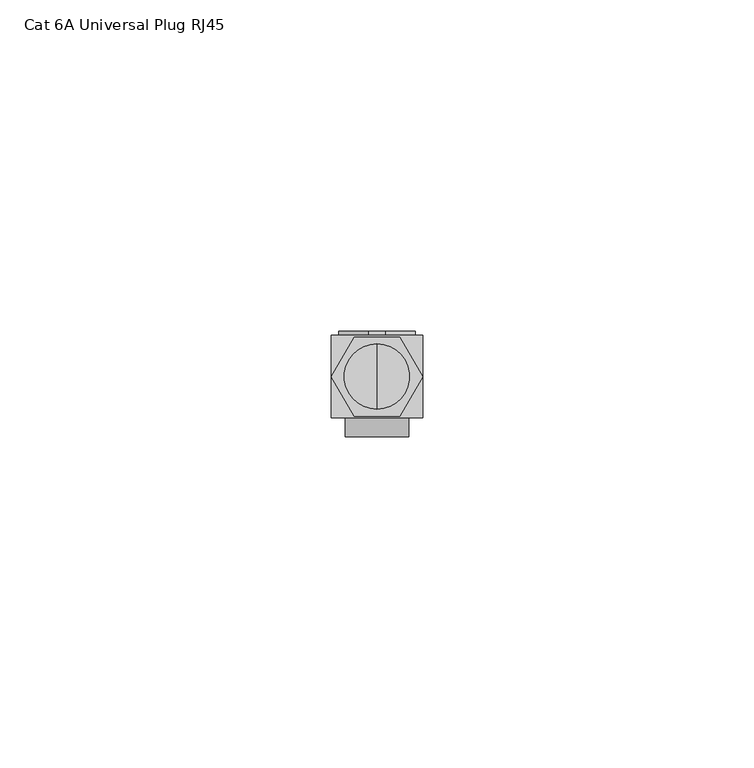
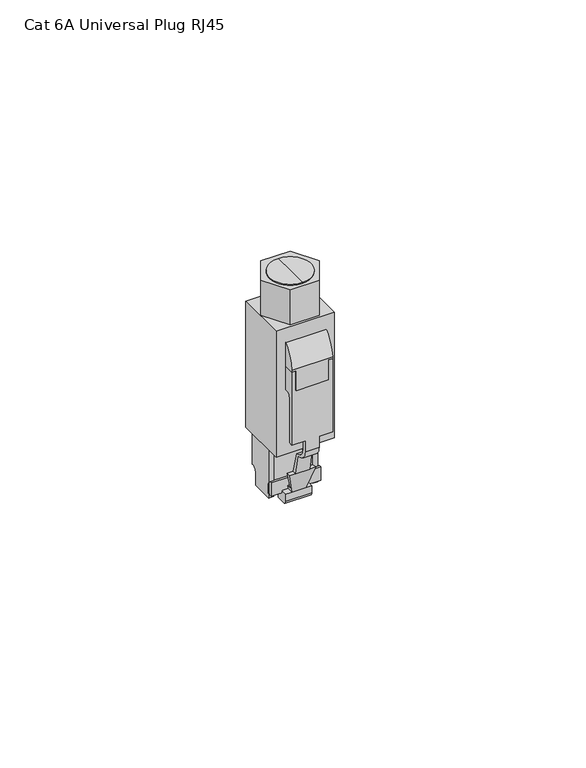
"""IFC4 building model written with IfcOpenShell, lengths in millimetres: electric appliance geometry, Data_Device-Network-Leviton-Cat_6A-Plug : Cat 6A Universal Plug RJ45."""

import ifcopenshell
import ifcopenshell.guid

model = None  # the IFC model being written
_history = None  # IfcOwnerHistory: only IFC2X3 demands one
_inside = {}  # id of a spatial element -> (the spatial element, [elements in it])
_under = {}  # id of a project, library or spatial element -> (it, [spatial elements below it])
_declared = {}  # id of a project -> (the project, [libraries it declares])
_typed = {}  # id of a type object -> (the type object, [elements of that type])
_made_of = {}  # id of a material, layer set ... -> (it, [elements and type objects made of it])


def new_model(schema):
    """Start an empty IFC model of exactly this schema.

    Asked for "IFC4X3", IfcOpenShell would pick the latest addendum, in which some entities
    have other attributes; the version numbers below select the first issue.
    IFC2X3 requires an IfcOwnerHistory on every rooted entity: one is made here for all.
    """
    global model, _history
    if schema == "IFC4X3":
        model = ifcopenshell.file(schema_version=(4, 3, 0, 0))
    else:
        model = ifcopenshell.file(schema=schema)
    _inside.clear()
    _under.clear()
    _declared.clear()
    _typed.clear()
    _made_of.clear()
    _history = None
    if model.schema == "IFC2X3":
        org = make("IfcOrganization", Name="unknown")
        user = make(
            "IfcPersonAndOrganization",
            ThePerson=make("IfcPerson", FamilyName="unknown"),
            TheOrganization=org,
        )
        app = make(
            "IfcApplication",
            ApplicationDeveloper=org,
            Version="unknown",
            ApplicationFullName="unknown",
            ApplicationIdentifier="unknown",
        )
        _history = make(
            "IfcOwnerHistory",
            OwningUser=user,
            OwningApplication=app,
            ChangeAction="ADDED",
            CreationDate=0,
        )
    return model


def make(cls, **values):
    """One entity of the class cls with the attributes given. An attribute that is None is left unset."""
    return model.create_entity(
        cls, **{name: value for name, value in values.items() if value is not None}
    )


def rooted(cls, **values):
    """An entity with a GlobalId (a new one), such as an element, a storey or a relation."""
    return make(cls, GlobalId=ifcopenshell.guid.new(), OwnerHistory=_history, **values)


def si_unit(unit_type, name, prefix=None):
    """IfcSIUnit, for example si_unit("LENGTHUNIT", "METRE", prefix="MILLI")."""
    return make("IfcSIUnit", UnitType=unit_type, Prefix=prefix, Name=name)


def assignment(units):
    """IfcUnitAssignment: the units of a project."""
    return None if units is None else make("IfcUnitAssignment", Units=units)


def point(xyz):
    """IfcCartesianPoint."""
    return None if xyz is None else make("IfcCartesianPoint", Coordinates=xyz)


def direction(xyz):
    """IfcDirection."""
    return None if xyz is None else make("IfcDirection", DirectionRatios=xyz)


def frame(location, z_axis=None, x_axis=None):
    """IfcAxis2Placement3D, a coordinate frame: its origin and axes. An axis left out is left unset."""
    return make(
        "IfcAxis2Placement3D",
        Location=point(location),
        Axis=direction(z_axis),
        RefDirection=direction(x_axis),
    )


def frame_2d(location, x_axis=None):
    """IfcAxis2Placement2D, a coordinate frame in the plane: its origin and x axis."""
    return make(
        "IfcAxis2Placement2D", Location=point(location), RefDirection=direction(x_axis)
    )


def origin():
    """The frame at (0, 0, 0) with its axes left unset."""
    return frame((0.0, 0.0, 0.0))


def origin_with_axes():
    """The frame at (0, 0, 0) with the z axis (0, 0, 1) and the x axis (1, 0, 0) written out."""
    return frame((0.0, 0.0, 0.0), z_axis=(0.0, 0.0, 1.0), x_axis=(1.0, 0.0, 0.0))


def place(relative_to, where):
    """IfcLocalPlacement: puts the frame where relative to a parent placement (None: the world)."""
    return make(
        "IfcLocalPlacement", PlacementRelTo=relative_to, RelativePlacement=where
    )


def context(
    kind, dimensions, precision=None, world=None, true_north=None, identifier=None
):
    """IfcGeometricRepresentationContext, for example the 3D "Model" context."""
    return make(
        "IfcGeometricRepresentationContext",
        ContextIdentifier=identifier,
        ContextType=kind,
        CoordinateSpaceDimension=dimensions,
        Precision=precision,
        WorldCoordinateSystem=world,
        TrueNorth=true_north,
    )


def project(units=None, contexts=None):
    """IfcProject with its units and contexts."""
    return rooted(
        "IfcProject",
        Name="project",
        RepresentationContexts=contexts,
        UnitsInContext=assignment(units),
    )


def spatial(cls, under=None, at=None, **own):
    """A site, building, storey or space (cls), placed at a placement, below another one or the project."""
    s = rooted(cls, ObjectPlacement=at, **own)
    if under is not None:
        _under.setdefault(under.id(), (under, []))[1].append(s)
    return s


def polyline(points):
    """IfcPolyline through the points."""
    return make("IfcPolyline", Points=[point(p) for p in points])


def circle_curve(where, radius):
    """IfcCircle in the frame where."""
    return make("IfcCircle", Position=where, Radius=radius)


def trimmed(basis, trim1, trim2, sense, master):
    """IfcTrimmedCurve: the piece of a basis curve between two trims."""
    return make(
        "IfcTrimmedCurve",
        BasisCurve=basis,
        Trim1=trim1,
        Trim2=trim2,
        SenseAgreement=sense,
        MasterRepresentation=master,
    )


def segment(curve, same_sense, transition):
    """IfcCompositeCurveSegment."""
    return make(
        "IfcCompositeCurveSegment",
        Transition=transition,
        SameSense=same_sense,
        ParentCurve=curve,
    )


def composite_curve(segments, self_intersect=None):
    """IfcCompositeCurve: segments joined end to end."""
    return make("IfcCompositeCurve", Segments=segments, SelfIntersect=self_intersect)


def outline(outer, holes=None, kind="AREA"):
    """IfcArbitraryClosedProfileDef: a profile drawn as a closed curve; with holes, ...WithVoids."""
    if holes is None:
        return make("IfcArbitraryClosedProfileDef", ProfileType=kind, OuterCurve=outer)
    return make(
        "IfcArbitraryProfileDefWithVoids",
        ProfileType=kind,
        OuterCurve=outer,
        InnerCurves=holes,
    )


def extrude(swept, where, along, depth):
    """IfcExtrudedAreaSolid: the profile swept, set in the frame where, extruded along a direction by depth."""
    return make(
        "IfcExtrudedAreaSolid",
        SweptArea=swept,
        Position=where,
        ExtrudedDirection=direction(along),
        Depth=depth,
    )


def shape(context_of_items, identifier, shape_type, items):
    """IfcShapeRepresentation: the items that make up one representation, for example the "Body"."""
    return make(
        "IfcShapeRepresentation",
        ContextOfItems=context_of_items,
        RepresentationIdentifier=identifier,
        RepresentationType=shape_type,
        Items=items,
    )


def source(mapping_origin, context_of_items, identifier, shape_type, items):
    """IfcRepresentationMap: a shape defined once, which mapped items show again and again."""
    return make(
        "IfcRepresentationMap",
        MappingOrigin=mapping_origin,
        MappedRepresentation=shape(context_of_items, identifier, shape_type, items),
    )


def transform(
    local_origin,
    x_axis=None,
    y_axis=None,
    z_axis=None,
    scale=None,
    scale2=None,
    scale3=None,
    uniform=True,
):
    """IfcCartesianTransformationOperator3D, or its non-uniform kind. x_axis, y_axis, z_axis: its Axis1, 2, 3."""
    if uniform:
        return make(
            "IfcCartesianTransformationOperator3D",
            Axis1=direction(x_axis),
            Axis2=direction(y_axis),
            LocalOrigin=point(local_origin),
            Scale=scale,
            Axis3=direction(z_axis),
        )
    return make(
        "IfcCartesianTransformationOperator3DnonUniform",
        Axis1=direction(x_axis),
        Axis2=direction(y_axis),
        LocalOrigin=point(local_origin),
        Scale=scale,
        Axis3=direction(z_axis),
        Scale2=scale2,
        Scale3=scale3,
    )


def mapped(mapping_source, mapping_target):
    """IfcMappedItem: shows the shape of a source again, moved by a transform."""
    return make(
        "IfcMappedItem", MappingSource=mapping_source, MappingTarget=mapping_target
    )


def made_of(thing, what):
    """Note that an element or type object is made of a material, layer set ...; save() writes the relation."""
    if what is not None:
        _made_of.setdefault(what.id(), (what, []))[1].append(thing)
    return thing


def element(
    cls,
    number,
    at=None,
    inside=None,
    cuts=None,
    type_object=None,
    material=None,
    context=None,
    identifier="Body",
    shape_type=None,
    held_by="IfcProductDefinitionShape",
    body=None,
    shapes=None,
    **own,
):
    """One element of the class cls, such as IfcWall. Its Tag is "e" and its number.

    at: its placement. inside: the storey or other place that contains it. cuts: it is an
    opening in that element (IfcRelVoidsElement). A single representation is given by context,
    identifier, shape_type and body (its items); several are given by shapes. held_by: the class
    of the entity that holds the representations. save() writes the other relations.
    """
    e = rooted(cls, Tag="e%d" % number, ObjectPlacement=at, **own)
    if body is not None:
        shapes = [shape(context, identifier, shape_type, body)]
    if shapes is not None:
        e.Representation = make(held_by, Representations=shapes)
    if inside is not None:
        _inside.setdefault(inside.id(), (inside, []))[1].append(e)
    if cuts is not None:
        rooted(
            "IfcRelVoidsElement", RelatingBuildingElement=cuts, RelatedOpeningElement=e
        )
    if type_object is not None:
        _typed.setdefault(type_object.id(), (type_object, []))[1].append(e)
    return made_of(e, material)


def aggregate(whole, parts):
    """IfcRelAggregates: a whole, such as a stair, and the parts it consists of."""
    return rooted("IfcRelAggregates", RelatingObject=whole, RelatedObjects=parts)


def save(model, path):
    """Write the relations noted so far, then the file.

    IfcRelAggregates (storeys below a building ...), IfcRelContainedInSpatialStructure (elements
    in a storey), IfcRelDefinesByType, IfcRelAssociatesMaterial and IfcRelDeclares: one each for
    every whole, place, type object, material and project.
    """
    for whole, parts in _under.values():
        aggregate(whole, parts)
    for where, things in _inside.values():
        rooted(
            "IfcRelContainedInSpatialStructure",
            RelatedElements=things,
            RelatingStructure=where,
        )
    for kind, things in _typed.values():
        rooted("IfcRelDefinesByType", RelatedObjects=things, RelatingType=kind)
    for what, things in _made_of.values():
        rooted("IfcRelAssociatesMaterial", RelatedObjects=things, RelatingMaterial=what)
    for by, libraries in _declared.values():
        rooted("IfcRelDeclares", RelatingContext=by, RelatedDefinitions=libraries)
    model.write(path)


def plane_surface(at):
    """IfcPlane: the flat surface through the origin of the frame at, square to its z axis."""
    return make("IfcPlane", Position=at)


def cylinder_surface(at, radius):
    """IfcCylindricalSurface: all points at the distance radius from the z axis of the frame at."""
    return make("IfcCylindricalSurface", Position=at, Radius=radius)


def revolved_surface(curve, axis_point, axis_direction):
    """IfcSurfaceOfRevolution: the curve turned about the line through axis_point along axis_direction."""
    return make(
        "IfcSurfaceOfRevolution",
        SweptCurve=make("IfcArbitraryOpenProfileDef", ProfileType="CURVE", Curve=curve),
        AxisPosition=make("IfcAxis1Placement", Location=point(axis_point), Axis=direction(axis_direction)),
    )


def advanced_brep(points, edges, surfaces, faces):
    """IfcAdvancedBrep: a solid bounded by faces that lie on surfaces and meet in shared edges.

    An edge is (start, end): straight between two places in points (the first is 0);
    or (start, end, curve); or (start, end, curve, False) where it runs against its curve.
    A face is (place in surfaces, loops), or (place, loops, False) where it looks against
    its surface's normal. A loop lists edges by number (the first is 1), with a minus sign
    where the edge is run from its end to its start. The first loop is the outer one.
    """
    corners = [point(p) for p in points]
    vertices = [make("IfcVertexPoint", VertexGeometry=c) for c in corners]
    made = []
    for start, end, *more in edges:
        made.append(
            make(
                "IfcEdgeCurve",
                EdgeStart=vertices[start],
                EdgeEnd=vertices[end],
                EdgeGeometry=more[0] if more else make("IfcPolyline", Points=[corners[start], corners[end]]),
                SameSense=more[1] if len(more) > 1 else True,
            )
        )
    hull = []
    for where, loops, *sense in faces:
        bounds = []
        for j, loop in enumerate(loops):
            ring = [make("IfcOrientedEdge", EdgeElement=made[abs(k) - 1], Orientation=k > 0) for k in loop]
            bounds.append(
                make(
                    "IfcFaceOuterBound" if j == 0 else "IfcFaceBound",
                    Bound=make("IfcEdgeLoop", EdgeList=ring),
                    Orientation=True,
                )
            )
        hull.append(make("IfcAdvancedFace", Bounds=bounds, FaceSurface=surfaces[where], SameSense=sense[0] if sense else True))
    return make("IfcAdvancedBrep", Outer=make("IfcClosedShell", CfsFaces=hull))


def cat_6a_universal_plug_rj45_b46e12e7(model_context):
    return source(origin(), model_context, "Body", "SolidModel", [
        advanced_brep(
        [(-23.0251, 8.9270724, 40.5000001), (-23.0251, -0.933565, 40.5000001), (-23.0251, 3.9967537, 40.5000001), (-23.0251, 8.9270724, 31.4499997), (-23.0251, -0.933565, 31.4499997), (-23.0251, 3.9967537, 31.4499997)],
        [
            (0, 1, circle_curve(frame((-23.0251, 3.9967537, 40.5000001), z_axis=(0.0, 0.0, 1.0), x_axis=(0.0, -1.0, 0.0)), 4.9303187)),
            (1, 2),
            (2, 0),
            (1, 0, circle_curve(frame((-23.0251, 3.9967537, 40.5000001), z_axis=(0.0, 0.0, 1.0), x_axis=(0.0, -1.0, 0.0)), 4.9303187)),
            (3, 4, circle_curve(frame((-23.0251, 3.9967537, 31.4499997), z_axis=(0.0, 0.0, 1.0), x_axis=(0.0, -1.0, 0.0)), 4.9303187)),
            (4, 1),
            (0, 3),
            (4, 3, circle_curve(frame((-23.0251, 3.9967537, 31.4499997), z_axis=(0.0, 0.0, 1.0), x_axis=(0.0, -1.0, 0.0)), 4.9303187)),
            (5, 4),
            (3, 5),
        ],
        [
            plane_surface(frame((-23.0251, 3.9967537, 40.5000001), z_axis=(0.0, 0.0, 1.0), x_axis=(0.0, -1.0, 0.0))),
            cylinder_surface(frame((-23.0251, 3.9967537, 25.5213869), z_axis=(0.0, 0.0, -1.0), x_axis=(0.0, -1.0, 0.0)), 4.9303187),
            plane_surface(frame((-23.0251, 3.9967537, 31.4499997), z_axis=(0.0, 0.0, -1.0), x_axis=(0.0, -1.0, 0.0))),
        ],
        [
            (0, [[1, 2, 3]]),
            (0, [[4, -3, -2]]),
            (1, [[5, 6, -1, 7]]),
            (1, [[8, -7, -4, -6]]),
            (2, [[9, -5, 10]]),
            (2, [[-10, -8, -9]]),
        ],
    ),
        extrude(outline(polyline([(-16.1326925, 3.9967537), (-19.5788962, -1.9722463), (-26.4713038, -1.9722463), (-29.9175075, 3.9967537), (-26.4713038, 9.9657537), (-19.5788962, 9.9657537), (-16.1326925, 3.9967537)])), frame((0.0, 0.0, 31.750001), z_axis=(0.0, 0.0, 1.0), x_axis=(1.0, 0.0, 0.0)), (0.0, 0.0, 1.0), 8.7499991),
        extrude(outline(polyline([(-27.6112001, 3.9542826), (-27.6112001, 8.2042828), (-18.4389999, 8.2042828), (-18.4389999, 3.9542826), (-27.6112001, 3.9542826)])), origin_with_axes(), (0.0, 0.0, 1.0), 13.5500003),
        advanced_brep(
        [(-21.7550806, 10.8409543, 6.851052), (-24.282634, 10.8409543, 6.8510693), (-28.8124503, 10.8409543, 11.3683211), (-28.8125134, 10.8409543, 20.6178211), (-24.2980018, 10.8409543, 25.135151), (-21.7521982, 10.8409543, 25.135151), (-17.2376866, 10.8409543, 20.6178211), (-17.2377497, 10.8409543, 11.3683211), (-21.7550806, 10.2040825, 6.851052), (-17.2377497, 10.2040825, 11.3683211), (-17.2376866, 10.2040825, 20.6178211), (-21.7521982, 10.2040825, 25.135151), (-24.2949557, 10.2040825, 25.1351684), (-28.8125134, 10.2040825, 20.6178211), (-28.8124503, 10.2040825, 11.3683211), (-24.282634, 10.2040825, 6.8510693)],
        [
            (0, 1),
            (1, 2, circle_curve(frame((-24.2951503, 10.8409543, 11.3683519), z_axis=(0.0, 1.0, 0.0), x_axis=(1.0, 0.0, 0.0)), 4.5172999)),
            (2, 3),
            (3, 4, circle_curve(frame((-24.2952135, 10.8409543, 20.617852), z_axis=(0.0, 1.0, 0.0), x_axis=(1.0, 0.0, 0.0)), 4.5172999)),
            (4, 5),
            (5, 6, circle_curve(frame((-21.7549865, 10.8409543, 20.617852), z_axis=(0.0, 1.0, 0.0), x_axis=(1.0, 0.0, 0.0)), 4.5172999)),
            (6, 7),
            (7, 0, circle_curve(frame((-21.7550497, 10.8409543, 11.3683519), z_axis=(0.0, 1.0, 0.0), x_axis=(1.0, 0.0, 0.0)), 4.5172999)),
            (8, 9, circle_curve(frame((-21.7550497, 10.2040825, 11.3683519), z_axis=(0.0, -1.0, 0.0), x_axis=(1.0, 0.0, 0.0)), 4.5172999)),
            (9, 10),
            (10, 11, circle_curve(frame((-21.7549865, 10.2040825, 20.617852), z_axis=(0.0, -1.0, 0.0), x_axis=(1.0, 0.0, 0.0)), 4.5172999)),
            (11, 12),
            (12, 13, circle_curve(frame((-24.2952135, 10.2040825, 20.617852), z_axis=(0.0, -1.0, 0.0), x_axis=(1.0, 0.0, 0.0)), 4.5172999)),
            (13, 14),
            (14, 15, circle_curve(frame((-24.2951503, 10.2040825, 11.3683519), z_axis=(0.0, -1.0, 0.0), x_axis=(1.0, 0.0, 0.0)), 4.5172999)),
            (15, 8),
            (0, 8),
            (15, 1),
            (14, 2),
            (13, 3),
            (12, 4),
            (11, 5),
            (10, 6),
            (9, 7),
        ],
        [
            plane_surface(frame((-24.282634, 10.8409543, 6.8510693), z_axis=(0.0, 1.0, 0.0), x_axis=(-0.9999999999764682, 0.0, 6.860297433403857e-06))),
            plane_surface(frame((-24.282634, 10.2040825, 6.8510693), z_axis=(0.0, -1.0, 0.0), x_axis=(0.9999999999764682, 0.0, -6.860297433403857e-06))),
            plane_surface(frame((-21.7550806, 10.8409543, 6.851052), z_axis=(-6.860297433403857e-06, 0.0, -0.9999999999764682), x_axis=(0.0, -1.0, 0.0))),
            cylinder_surface(frame((-24.2951503, 10.2040825, 11.3683519), z_axis=(0.0, 1.0, 0.0), x_axis=(1.0, 0.0, 0.0)), 4.5172999),
            plane_surface(frame((-28.8124503, 10.8409543, 11.3683211), z_axis=(-0.999999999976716, 0.0, -6.8240925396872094e-06), x_axis=(0.0, -1.0, 0.0))),
            cylinder_surface(frame((-24.2952135, 10.2040825, 20.617852), z_axis=(0.0, 1.0, 0.0), x_axis=(1.0, 0.0, 0.0)), 4.5172999),
            plane_surface(frame((-24.2949557, 10.8409543, 25.1351684), z_axis=(6.826971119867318e-06, 0.0, 0.9999999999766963), x_axis=(0.0, -1.0, 0.0))),
            cylinder_surface(frame((-21.7549865, 10.2040825, 20.617852), z_axis=(0.0, 1.0, 0.0), x_axis=(1.0, 0.0, 0.0)), 4.5172999),
            plane_surface(frame((-17.2376866, 10.8409543, 20.6178211), z_axis=(0.999999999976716, 0.0, -6.824092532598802e-06), x_axis=(0.0, -1.0, 0.0))),
            cylinder_surface(frame((-21.7550497, 10.2040825, 11.3683519), z_axis=(0.0, 1.0, 0.0), x_axis=(1.0, 0.0, 0.0)), 4.5172999),
        ],
        [
            (0, [[1, 2, 3, 4, 5, 6, 7, 8]]),
            (1, [[9, 10, 11, 12, 13, 14, 15, 16]]),
            (2, [[-1, 17, -16, 18]]),
            (3, [[-2, -18, -15, 19]]),
            (4, [[-3, -19, -14, 20]]),
            (5, [[-4, -20, -13, 21]]),
            (6, [[-5, -21, -12, 22]]),
            (7, [[-6, -22, -11, 23]]),
            (8, [[-7, -23, -10, 24]]),
            (9, [[-8, -24, -9, -17]]),
        ],
    ),
        extrude(outline(polyline([(-16.129, 10.2040825), (-16.129, -2.1867175), (-29.9212, -2.1867175), (-29.9212, 10.2040825), (-16.129, 10.2040825)])), origin_with_axes(), (0.0, 0.0, 1.0), 31.4499997),
        advanced_brep(
        [(-17.1831, 9.3042822, 0.0), (-17.1831, 2.7042823, 0.0), (-17.1831, 2.7042823, -9.6673754), (-17.1831, 2.9542829, -10.45), (-17.1831, 2.9542829, -12.5), (-17.1831, 2.7042823, -12.5), (-17.1831, 2.7042823, -13.5500003), (-17.1831, 7.9542822, -13.5500003), (-17.1831, 7.9542822, -10.45), (-17.1831, 9.3042822, -9.1), (-28.8651002, 9.3042822, 0.0), (-28.8651002, 9.3042822, -9.1), (-28.8651002, 7.9542822, -10.45), (-28.8651002, 7.9542822, -13.5500003), (-28.8651002, 2.7042823, -13.5500003), (-28.8651002, 2.7042823, -12.5), (-28.8651002, 2.9542829, -12.5), (-28.8651002, 2.9542829, -10.45), (-28.8651002, 2.7042823, -9.6673754), (-28.8651002, 2.7042823, 0.0), (-18.4351, 2.7042823, -13.5500003), (-18.4351, 6.9542825, -13.5500003), (-27.6151, 6.9542825, -13.5500003), (-27.6151, 2.7042823, -13.5500003), (-18.4351, 2.7042823, -12.5), (-27.6151, 2.7042823, -12.5), (-18.4351, 2.7042823, 0.0), (-18.4351, 2.7042823, -9.6673754), (-27.6151, 2.7042823, 0.0), (-27.6151, 2.7042823, -9.6673754), (-27.6151, 6.9542825, 0.0), (-18.4351, 6.9542825, 0.0), (-18.4351, 2.9542829, -12.5), (-18.4351, 2.9542829, -10.45), (-27.6151, 2.9542829, -10.45), (-27.6151, 2.9542829, -12.5)],
        [
            (0, 1),
            (1, 2),
            (2, 3, circle_curve(frame((-17.1831, 1.6042828, -10.45), z_axis=(-1.0, 0.0, 0.0), x_axis=(0.0, 1.0, 0.0)), 1.35)),
            (3, 4),
            (4, 5),
            (5, 6),
            (6, 7),
            (7, 8),
            (8, 9, circle_curve(frame((-17.1831, 9.3042822, -10.45), z_axis=(-1.0, 0.0, 0.0), x_axis=(0.0, 1.0, 0.0)), 1.35)),
            (9, 0),
            (10, 11),
            (11, 12, circle_curve(frame((-28.8651002, 9.3042822, -10.45), z_axis=(1.0, 0.0, 0.0), x_axis=(0.0, 1.0, 0.0)), 1.35)),
            (12, 13),
            (13, 14),
            (14, 15),
            (15, 16),
            (16, 17),
            (17, 18, circle_curve(frame((-28.8651002, 1.6042828, -10.45), z_axis=(1.0, 0.0, 0.0), x_axis=(0.0, 1.0, 0.0)), 1.35)),
            (18, 19),
            (19, 10),
            (9, 11),
            (10, 0),
            (6, 20),
            (20, 21),
            (21, 22),
            (22, 23),
            (23, 14),
            (13, 7),
            (5, 24),
            (24, 20),
            (23, 25),
            (25, 15),
            (1, 26),
            (26, 27),
            (27, 2),
            (28, 19),
            (18, 29),
            (29, 28),
            (28, 30),
            (30, 31),
            (31, 26),
            (8, 12),
            (21, 31),
            (30, 22),
            (24, 32),
            (32, 33),
            (33, 27, circle_curve(frame((-18.4351, 1.6042828, -10.45), z_axis=(1.0, 0.0, 0.0), x_axis=(0.0, 1.0, 0.0)), 1.35)),
            (29, 34, circle_curve(frame((-27.6151, 1.6042828, -10.45), z_axis=(-1.0, 0.0, 0.0), x_axis=(0.0, 1.0, 0.0)), 1.35)),
            (34, 35),
            (35, 25),
            (33, 3),
            (17, 34),
            (32, 4),
            (16, 35),
        ],
        [
            plane_surface(frame((-17.1831, 9.5233298, 0.0), z_axis=(1.0, 0.0, 0.0), x_axis=(0.0, -1.0, 0.0))),
            plane_surface(frame((-28.8651002, 9.5233298, 0.0), z_axis=(-1.0, 0.0, 0.0), x_axis=(0.0, 1.0, 0.0))),
            plane_surface(frame((-17.1831, 9.3042822, -9.1), z_axis=(0.0, 1.0, 0.0), x_axis=(-1.0, 0.0, 0.0))),
            plane_surface(frame((-17.1831, 2.7042823, -13.5500003), z_axis=(0.0, 0.0, -1.0), x_axis=(-1.0, 0.0, 0.0))),
            plane_surface(frame((-17.1831, 2.7042823, 0.0), z_axis=(0.0, -1.0, 0.0), x_axis=(-1.0, 0.0, 0.0))),
            plane_surface(frame((-17.1831, 9.3042822, 0.0), z_axis=(0.0, 0.0, 1.0), x_axis=(-1.0, 0.0, 0.0))),
            revolved_surface(polyline([(-28.8651002, 10.654282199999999, -10.45), (-17.1831, 10.654282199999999, -10.45)]), (-28.8651002, 9.3042822, -10.45), (-1.0, 0.0, 0.0)),
            plane_surface(frame((-17.1831, 7.9542822, -13.5500003), z_axis=(0.0, 1.0, 0.0), x_axis=(-1.0, 0.0, 0.0))),
            plane_surface(frame((-18.4351, 6.9542825, 0.0), z_axis=(0.0, -1.0, 0.0), x_axis=(0.0, 0.0, -1.0))),
            plane_surface(frame((-18.4351, 2.7042823, 0.0), z_axis=(-1.0, 0.0, 0.0), x_axis=(0.0, 0.0, -1.0))),
            plane_surface(frame((-27.6151, 6.9542825, 0.0), z_axis=(1.0, 0.0, 0.0), x_axis=(0.0, 0.0, -1.0))),
            revolved_surface(polyline([(-18.4351, 2.9542828, -10.45), (-17.1831, 2.9542828, -10.45)]), (-17.1831, 1.6042828, -10.45), (-1.0, 0.0, 0.0)),
            revolved_surface(polyline([(-28.8651002, 2.9542828, -10.45), (-27.6151, 2.9542828, -10.45)]), (-17.1831, 1.6042828, -10.45), (-1.0, 0.0, 0.0)),
            plane_surface(frame((-28.8651002, 2.9542829, -10.45), z_axis=(0.0, -1.0, -8.722668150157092e-09), x_axis=(1.0, 0.0, 0.0))),
            plane_surface(frame((-28.8651002, 2.9542829, -12.5), z_axis=(0.0, 0.0, 1.0), x_axis=(1.0, 0.0, 0.0))),
        ],
        [
            (0, [[1, 2, 3, 4, 5, 6, 7, 8, 9, 10]]),
            (1, [[11, 12, 13, 14, 15, 16, 17, 18, 19, 20]]),
            (2, [[-10, 21, -11, 22]]),
            (3, [[-7, 23, 24, 25, 26, 27, -14, 28]]),
            (4, [[-23, -6, 29, 30]]),
            (4, [[-27, 31, 32, -15]]),
            (4, [[33, 34, 35, -2]]),
            (4, [[36, -19, 37, 38]]),
            (5, [[-1, -22, -20, -36, 39, 40, 41, -33]]),
            (6, [[-9, 42, -12, -21]]),
            (7, [[-8, -28, -13, -42]]),
            (8, [[43, -40, 44, -25]]),
            (9, [[-43, -24, -30, 45, 46, 47, -34, -41]]),
            (10, [[-44, -39, -38, 48, 49, 50, -31, -26]]),
            (11, [[51, -3, -35, -47]]),
            (12, [[52, -48, -37, -18]]),
            (13, [[-51, -46, 53, -4]]),
            (13, [[-52, -17, 54, -49]]),
            (14, [[-53, -45, -29, -5]]),
            (14, [[-54, -16, -32, -50]]),
        ],
    ),
        advanced_brep(
        [(-18.2245, -5.0867175, 22.2999994), (-18.2245, -2.1867175, 22.2999994), (-18.2245, -2.1867175, 28.4499992), (-18.2245, -5.0867175, 22.7392246), (-27.8251002, -5.0867175, 22.7392246), (-27.8251002, -2.1867175, 28.4499992), (-27.8251002, -2.1867175, 22.2999994), (-27.8251002, -5.0867175, 22.2999994), (-19.2189999, -4.0867171, 17.3000004), (-26.8312001, -4.0867171, 17.3000004), (-26.8312001, -4.0867171, 22.2999994), (-19.2189999, -4.0867171, 22.2999994), (-26.8312001, -5.0867175, 22.2999994), (-26.8312001, -5.0867175, 17.3000004), (-19.2189999, -5.0867175, 17.3000004), (-19.2189999, -5.0867175, 22.2999994)],
        [
            (0, 1),
            (1, 2),
            (2, 3, circle_curve(frame((-18.2245, 3.0811536, 22.1831962), z_axis=(1.0, 0.0, 0.0), x_axis=(0.0, -1.0, 0.0)), 8.1867751)),
            (3, 0),
            (4, 5, circle_curve(frame((-27.8251002, 3.0811536, 22.1831962), z_axis=(-1.0, 0.0, 0.0), x_axis=(0.0, -1.0, 0.0)), 8.1867751)),
            (5, 6),
            (6, 7),
            (7, 4),
            (8, 9),
            (9, 10),
            (10, 11),
            (11, 8),
            (1, 6),
            (5, 2),
            (4, 3),
            (7, 12),
            (12, 13),
            (13, 14),
            (14, 15),
            (15, 0),
            (8, 14),
            (13, 9),
            (15, 11),
            (10, 12),
        ],
        [
            plane_surface(frame((-18.2245, -4.0867171, 17.3000004), z_axis=(1.0, 0.0, 0.0), x_axis=(0.0, 1.0, 0.0))),
            plane_surface(frame((-27.8251002, -4.0867171, 17.3000004), z_axis=(-1.0, 0.0, 0.0), x_axis=(0.0, -1.0, 0.0))),
            plane_surface(frame((-18.2245, -4.0867171, 17.3000004), z_axis=(0.0, 1.0, 0.0), x_axis=(-1.0, 0.0, 0.0))),
            plane_surface(frame((-18.2245, -2.1867175, 22.2999994), z_axis=(0.0, 1.0, 0.0), x_axis=(-1.0, 0.0, 0.0))),
            cylinder_surface(frame((-27.8251002, 3.0811536, 22.1831962), z_axis=(1.0, 0.0, 0.0), x_axis=(0.0, -1.0, 0.0)), 8.1867751),
            plane_surface(frame((-18.2245, -5.0867175, 22.7392246), z_axis=(0.0, -1.0, 0.0), x_axis=(-1.0, 0.0, 0.0))),
            plane_surface(frame((-18.2245, -5.0867175, 17.3000004), z_axis=(0.0, 0.0, -1.0), x_axis=(-1.0, 0.0, 0.0))),
            plane_surface(frame((-18.2245, -4.0867171, 22.2999994), z_axis=(0.0, 0.0, -1.0), x_axis=(-1.0, 0.0, 0.0))),
            plane_surface(frame((-19.2189999, -2.1957172, 17.3000004), z_axis=(1.0, 0.0, 0.0), x_axis=(0.0, -1.0, 0.0))),
            plane_surface(frame((-26.8312001, -2.1957172, 22.2999994), z_axis=(-1.0, 0.0, 0.0), x_axis=(0.0, -1.0, 0.0))),
        ],
        [
            (0, [[1, 2, 3, 4]]),
            (1, [[5, 6, 7, 8]]),
            (2, [[9, 10, 11, 12]]),
            (3, [[-2, 13, -6, 14]]),
            (4, [[-3, -14, -5, 15]]),
            (5, [[-15, -8, 16, 17, 18, 19, 20, -4]]),
            (6, [[-9, 21, -18, 22]]),
            (7, [[-20, 23, -11, 24, -16, -7, -13, -1]]),
            (8, [[-23, -19, -21, -12]]),
            (9, [[-24, -10, -22, -17]]),
        ],
    ),
        advanced_brep(
        [(-18.2245, -4.0867171, 15.2894193), (-18.2245, -2.9761363, 16.4000001), (-18.2245, -2.1867175, 16.4000001), (-18.2245, -2.1867175, 22.2999994), (-18.2245, -5.0867175, 22.2999994), (-18.2245, -5.0867175, 3.9647617), (-18.2245, -4.0867171, 3.9647617), (-27.8251002, -5.0867175, 22.2999994), (-27.8251002, -2.1867175, 22.2999994), (-27.8251002, -2.1867175, 16.4000001), (-27.8251002, -2.9761363, 16.4000001), (-27.8251002, -4.0867171, 15.2894193), (-27.8251002, -4.0867171, 3.9647617), (-27.8251002, -5.0867175, 3.9647617), (-19.9751001, 3.6042828, -14.8973999), (-26.0750999, 3.6042828, -14.8973999), (-26.0750999, 3.6042828, -12.1412323), (-24.6251, 3.6042828, -12.1412323), (-24.8321453, 3.6042828, -11.3500003), (-21.2180547, 3.6042828, -11.3500003), (-21.4251, 3.6042828, -12.1412323), (-19.9751001, 3.6042828, -12.1412323), (-21.4251, 0.4022641, -12.1412323), (-24.6251, 0.4022641, -12.1412323), (-26.0750999, 0.4022641, -12.1412323), (-26.0750999, 0.4022641, -13.922664), (-19.9751001, 0.4022641, -13.922664), (-19.9751001, 0.4022641, -12.1412323), (-19.9751001, 1.3769999, -14.8973999), (-26.0750999, 1.3769999, -14.8973999), (-24.8321453, 0.8873358, -11.3500003), (-21.2180547, 0.8873358, -11.3500003), (-25.8265094, 0.1945581, -7.5499986), (-20.2236906, 0.1945581, -7.5499986), (-26.0750999, -0.0726535, -6.6), (-24.6251, -0.0726535, -6.6), (-24.6251, -1.5311612, -1.4146679), (-21.4251, -1.5311612, -1.4146679), (-21.4251, -0.0726535, -6.6), (-19.9751001, -0.0726535, -6.6), (-24.6251, -2.6334738, -0.946764), (-21.4251, -2.6334738, -0.946764), (-24.6251, -4.0867171, 1.2488471), (-21.4251, -4.0867171, 1.2488471), (-21.4251, -4.0867171, 3.9647617), (-24.6251, -4.0867171, 3.9647617), (-26.8312001, -2.1867175, 22.2999994), (-26.8312001, -2.1867175, 17.3000004), (-19.2189999, -2.1867175, 17.3000004), (-19.2189999, -2.1867175, 22.2999994), (-19.2189999, -5.0867175, 22.2999994), (-19.2189999, -5.0867175, 17.3000004), (-26.8312001, -5.0867175, 17.3000004), (-26.8312001, -5.0867175, 22.2999994), (-24.6251, -5.0867175, 3.9647617), (-24.6251, -5.0867175, 1.2125341), (-21.4251, -5.0867175, 1.2125341), (-21.4251, -5.0867175, 3.9647617), (-24.6251, -3.4473533, -1.264275), (-21.4251, -3.4473533, -1.264275), (-24.6251, -2.053619, -1.8558801), (-21.4251, -2.053619, -1.8558801), (-24.6251, -1.1867167, -6.5500034), (-21.4251, -1.1867167, -6.5500034), (-19.9620172, -1.1867167, -6.5500034), (-26.0881828, -1.1725081, -6.6)],
        [
            (0, 1, circle_curve(frame((-18.2245, -2.9761363, 15.2894193), z_axis=(-1.0, 0.0, 0.0), x_axis=(0.0, -1.0, 0.0)), 1.1105807)),
            (1, 2),
            (2, 3),
            (3, 4),
            (4, 5),
            (5, 6),
            (6, 0),
            (7, 8),
            (8, 9),
            (9, 10),
            (10, 11, circle_curve(frame((-27.8251002, -2.9761363, 15.2894193), z_axis=(1.0, 0.0, 0.0), x_axis=(0.0, -1.0, 0.0)), 1.1105807)),
            (11, 12),
            (12, 13),
            (13, 7),
            (14, 15),
            (15, 16),
            (16, 17),
            (17, 18),
            (18, 19),
            (19, 20),
            (20, 21),
            (21, 14),
            (22, 23),
            (23, 24),
            (24, 25),
            (25, 26),
            (26, 27),
            (27, 22),
            (14, 28),
            (28, 29),
            (29, 15),
            (18, 30),
            (30, 31),
            (31, 19),
            (30, 32),
            (32, 33),
            (33, 31),
            (32, 34),
            (34, 35),
            (35, 36),
            (36, 37),
            (37, 38),
            (38, 39),
            (39, 33),
            (36, 40),
            (40, 41),
            (41, 37),
            (40, 42, circle_curve(frame((-24.6251, -1.7014922, 1.2488471), z_axis=(-1.0, 0.0, 0.0), x_axis=(0.0, -1.0, 0.0)), 2.3852249)),
            (42, 43),
            (43, 41, circle_curve(frame((-21.4251, -1.7014922, 1.2488471), z_axis=(1.0, 0.0, 0.0), x_axis=(0.0, -1.0, 0.0)), 2.3852249)),
            (11, 0),
            (6, 44),
            (44, 43),
            (42, 45),
            (45, 12),
            (10, 1),
            (9, 2),
            (8, 46),
            (46, 47),
            (47, 48),
            (48, 49),
            (49, 3),
            (4, 50),
            (50, 51),
            (51, 52),
            (52, 53),
            (53, 7),
            (13, 54),
            (54, 55),
            (55, 56),
            (56, 57),
            (57, 5),
            (55, 58, circle_curve(frame((-24.6251, -2.3960103, 1.2125341), z_axis=(1.0, 0.0, 0.0), x_axis=(0.0, -1.0, 0.0)), 2.6907072)),
            (58, 59),
            (59, 56, circle_curve(frame((-21.4251, -2.3960103, 1.2125341), z_axis=(-1.0, 0.0, 0.0), x_axis=(0.0, -1.0, 0.0)), 2.6907072)),
            (58, 60),
            (60, 61),
            (61, 59),
            (60, 62),
            (62, 63),
            (63, 61),
            (22, 64),
            (64, 63),
            (62, 65),
            (65, 23),
            (28, 26, circle_curve(frame((-19.9751001, 1.3769999, -13.922664), z_axis=(-1.0, 0.0, 0.0), x_axis=(0.0, -1.0, 0.0)), 0.9747358)),
            (25, 29, circle_curve(frame((-26.0750999, 1.3769999, -13.922664), z_axis=(1.0, 0.0, 0.0), x_axis=(0.0, -1.0, 0.0)), 0.9747358)),
            (49, 50),
            (53, 46),
            (22, 20),
            (39, 64),
            (38, 63),
            (44, 57),
            (21, 27),
            (54, 45),
            (35, 62),
            (34, 65),
            (17, 23),
            (16, 24),
            (52, 47),
            (48, 51),
        ],
        [
            plane_surface(frame((-18.2245, 3.6042828, -1.0479287), z_axis=(1.0, 0.0, 0.0), x_axis=(0.0, 0.0, 1.0))),
            plane_surface(frame((-27.8251002, 3.6042828, -1.0479287), z_axis=(-1.0, 0.0, 0.0), x_axis=(0.0, 0.0, -1.0))),
            plane_surface(frame((-18.2245, 3.6042828, -14.8973999), z_axis=(0.0, 1.0, 0.0), x_axis=(-1.0, 0.0, 0.0))),
            plane_surface(frame((-18.2245, 0.4022641, -12.1412323), z_axis=(0.0, -1.0, 0.0), x_axis=(-1.0, 0.0, 0.0))),
            plane_surface(frame((-18.2245, 1.3769999, -14.8973999), z_axis=(0.0, 0.0, -1.0), x_axis=(-1.0, 0.0, 0.0))),
            plane_surface(frame((-18.2245, 3.6042828, -11.3500003), z_axis=(0.0, 0.0, 1.0), x_axis=(-1.0, 0.0, 0.0))),
            plane_surface(frame((-18.2245, 0.8873358, -11.3500003), z_axis=(0.0, 0.9837846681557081, 0.17935363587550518), x_axis=(-1.0, 0.0, 0.0))),
            plane_surface(frame((-18.2245, 0.1945581, -7.5499986), z_axis=(0.0, 0.9626444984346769, 0.27076847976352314), x_axis=(-1.0, 0.0, 0.0))),
            plane_surface(frame((-18.2245, -1.5311612, -1.4146679), z_axis=(0.0, 0.3907311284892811, 0.9205048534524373), x_axis=(-1.0, 0.0, 0.0))),
            revolved_surface(polyline([(-24.6251, -4.0867170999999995, 1.2488471), (-21.4251, -4.0867170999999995, 1.2488471)]), (-27.8251002, -1.7014922, 1.2488471), (-1.0, 0.0, 0.0)),
            plane_surface(frame((-18.2245, -4.0867171, 1.2488471), z_axis=(0.0, 1.0, 0.0), x_axis=(-1.0, 0.0, 0.0))),
            revolved_surface(polyline([(-27.8251002, -4.086717, 15.2894193), (-18.2245, -4.086717, 15.2894193)]), (-27.8251002, -2.9761363, 15.2894193), (-1.0, 0.0, 0.0)),
            plane_surface(frame((-18.2245, -2.9761363, 16.4000001), z_axis=(0.0, 0.0, -1.0), x_axis=(-1.0, 0.0, 0.0))),
            plane_surface(frame((-18.2245, -2.1867175, 16.4000001), z_axis=(0.0, 1.0, 0.0), x_axis=(-1.0, 0.0, 0.0))),
            plane_surface(frame((-18.2245, -5.0867175, 22.2999994), z_axis=(0.0, -1.0, 0.0), x_axis=(-1.0, 0.0, 0.0))),
            cylinder_surface(frame((-27.8251002, -2.3960103, 1.2125341), z_axis=(1.0, 0.0, 0.0), x_axis=(0.0, -1.0, 0.0)), 2.6907072),
            plane_surface(frame((-18.2245, -3.4473533, -1.264275), z_axis=(0.0, -0.39073112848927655, -0.9205048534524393), x_axis=(-1.0, 0.0, 0.0))),
            plane_surface(frame((-18.2245, -2.053619, -1.8558801), z_axis=(0.0, -0.9833711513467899, -0.1816072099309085), x_axis=(-1.0, 0.0, 0.0))),
            plane_surface(frame((-18.2245, -1.1867167, -6.5500034), z_axis=(0.0, -0.9619098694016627, -0.27336679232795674), x_axis=(-1.0, 0.0, 0.0))),
            cylinder_surface(frame((-27.8251002, 1.3769999, -13.922664), z_axis=(1.0, 0.0, 0.0), x_axis=(0.0, -1.0, 0.0)), 0.9747358),
            plane_surface(frame((-18.2245, -2.1867175, 22.2999994), z_axis=(0.0, 0.0, 1.0), x_axis=(-1.0, 0.0, 0.0))),
            plane_surface(frame((-21.4251, 5.4542825, -12.1412323), z_axis=(0.967426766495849, 0.0, -0.25315104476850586), x_axis=(0.0, -1.0, 0.0))),
            plane_surface(frame((-19.9751001, 5.4542825, -6.6), z_axis=(0.0, 0.0, 1.0), x_axis=(0.0, -1.0, 0.0))),
            plane_surface(frame((-21.4251, 5.4542825, -6.6), z_axis=(1.0, 0.0, 0.0), x_axis=(0.0, -1.0, 0.0))),
            plane_surface(frame((-21.4251, 5.4542825, 3.9647617), z_axis=(0.0, 0.0, -1.0), x_axis=(0.0, -1.0, 0.0))),
            plane_surface(frame((-19.9751001, 5.4542825, -14.8973999), z_axis=(1.0, 0.0, 0.0), x_axis=(0.0, -1.0, 0.0))),
            plane_surface(frame((-19.9751001, 5.4542825, -12.1412323), z_axis=(0.0, 0.0, 1.0), x_axis=(0.0, -1.0, 0.0))),
            plane_surface(frame((-24.6251, 5.4542825, 3.9647617), z_axis=(-1.0, 0.0, 0.0), x_axis=(0.0, -1.0, 0.0))),
            plane_surface(frame((-24.6251, 5.4542825, -6.6), z_axis=(0.0, 0.0, 1.0), x_axis=(0.0, -1.0, 0.0))),
            plane_surface(frame((-26.0750999, 5.4542825, -6.6), z_axis=(-0.9674267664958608, 0.0, -0.25315104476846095), x_axis=(0.0, -1.0, 0.0))),
            plane_surface(frame((-24.6251, 5.4542825, -12.1412323), z_axis=(0.0, 0.0, 1.0), x_axis=(0.0, -1.0, 0.0))),
            plane_surface(frame((-26.0750999, 5.4542825, -12.1412323), z_axis=(-1.0, 0.0, 0.0), x_axis=(0.0, -1.0, 0.0))),
            plane_surface(frame((-29.9212, 5.4542825, 3.9647617), z_axis=(0.0, 0.0, -1.0), x_axis=(0.0, -1.0, 0.0))),
            plane_surface(frame((-26.8312001, 5.4542825, 17.3000004), z_axis=(1.0, 0.0, 0.0), x_axis=(0.0, -1.0, 0.0))),
            plane_surface(frame((-19.2189999, 5.4542825, 22.2999994), z_axis=(-1.0, 0.0, 0.0), x_axis=(0.0, -1.0, 0.0))),
            plane_surface(frame((-19.2189999, 5.4542825, 17.3000004), z_axis=(0.0, 0.0, 1.0), x_axis=(0.0, -1.0, 0.0))),
        ],
        [
            (0, [[1, 2, 3, 4, 5, 6, 7]]),
            (1, [[8, 9, 10, 11, 12, 13, 14]]),
            (2, [[15, 16, 17, 18, 19, 20, 21, 22]]),
            (3, [[23, 24, 25, 26, 27, 28]]),
            (4, [[-15, 29, 30, 31]]),
            (5, [[-19, 32, 33, 34]]),
            (6, [[-33, 35, 36, 37]]),
            (7, [[-36, 38, 39, 40, 41, 42, 43, 44]]),
            (8, [[-41, 45, 46, 47]]),
            (9, [[-46, 48, 49, 50]]),
            (10, [[51, -7, 52, 53, -49, 54, 55, -12]]),
            (11, [[-1, -51, -11, 56]]),
            (12, [[-2, -56, -10, 57]]),
            (13, [[-3, -57, -9, 58, 59, 60, 61, 62]]),
            (14, [[-5, 63, 64, 65, 66, 67, -14, 68, 69, 70, 71, 72]]),
            (15, [[-70, 73, 74, 75]]),
            (16, [[-74, 76, 77, 78]]),
            (17, [[-77, 79, 80, 81]]),
            (18, [[-23, 82, 83, -80, 84, 85]]),
            (19, [[-30, 86, -26, 87]]),
            (20, [[-4, -62, 88, -63]]),
            (20, [[-8, -67, 89, -58]]),
            (21, [[90, -20, -34, -37, -44, 91, -82]]),
            (22, [[-91, -43, 92, -83]]),
            (23, [[-92, -42, -47, -50, -53, 93, -71, -75, -78, -81]]),
            (24, [[-93, -52, -6, -72]]),
            (25, [[94, -27, -86, -29, -22]]),
            (26, [[-90, -28, -94, -21]]),
            (27, [[95, -54, -48, -45, -40, 96, -79, -76, -73, -69]]),
            (28, [[-96, -39, 97, -84]]),
            (29, [[-97, -38, -35, -32, -18, 98, -85]]),
            (30, [[-98, -17, 99, -24]]),
            (31, [[-99, -16, -31, -87, -25]]),
            (32, [[-95, -68, -13, -55]]),
            (33, [[100, -59, -89, -66]]),
            (34, [[101, -64, -88, -61]]),
            (35, [[-100, -65, -101, -60]]),
        ],
    ),
        extrude(outline(composite_curve([segment(polyline([(2.9542829, -10.45), (2.9542829, -12.5), (1.6042828, -12.5), (1.6042828, -9.1)]), True, "CONTINUOUS"), segment(trimmed(circle_curve(frame_2d((1.6042828, -10.45)), 1.35), [point((1.6042828, -9.1))], [point((2.9542829, -10.45))], False, "CARTESIAN"), True, "CONTINUOUS")], self_intersect=False)), frame((-28.8651002, 0.0, 0.0), z_axis=(1.0, 0.0, 0.0), x_axis=(0.0, 1.0, 0.0)), (0.0, 0.0, 1.0), 11.6820002),
    ])


if __name__ == "__main__":
    model = new_model("IFC4")
    model_context = context("Model", 3, world=origin())
    ifc_project = project(units=[si_unit("LENGTHUNIT", "METRE", prefix="MILLI")], contexts=[model_context])
    site = spatial("IfcSite", under=ifc_project)
    building = spatial("IfcBuilding", under=site)
    placement = place(None, origin())
    cat_6a_universal_plug_rj45_shape = cat_6a_universal_plug_rj45_b46e12e7(model_context)
    element("IfcElectricAppliance", 1, ObjectType="Data_Device-Network-Leviton-Cat_6A-Plug : Cat 6A Universal Plug RJ45", at=placement, inside=building, context=model_context, shape_type="MappedRepresentation", body=[
        mapped(cat_6a_universal_plug_rj45_shape, transform((0.0, 0.0, 0.0), x_axis=(1.0, 0.0, 0.0), y_axis=(0.0, 1.0, 0.0), z_axis=(0.0, 0.0, 1.0))),
    ])
    save(model, "model.ifc")
